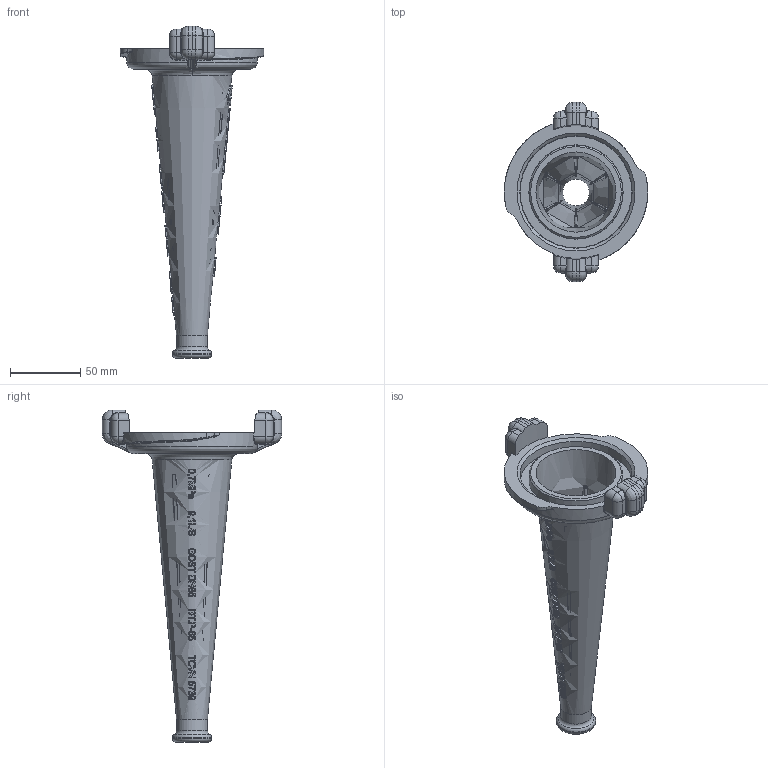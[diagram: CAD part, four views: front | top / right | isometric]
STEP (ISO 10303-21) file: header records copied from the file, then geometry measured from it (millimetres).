
FILE_DESCRIPTION(('STEP AP203'),'1');
FILE_NAME('Lang D65.stp','2025-07-15T12:00:19',(' '),(' '),'Spatial InterOp 3D',' ',' ');
FILE_SCHEMA(('CONFIG_CONTROL_DESIGN'));
Length unit declared in the file: millimetre
Products named in the file (1): Lang D65
Bounding box: 101.93 x 127.5 x 236 mm (x, y, z)
Volume: 111598.3 mm3; surface area: 73828.3 mm2
Topology: 1 solids, 1 shells, 1125 faces, 2913 edges, 1843 vertices
Faces by surface type: plane 371, extrusion 367, bspline 170, cylinder 109, cone 79, sphere 20, torus 9
Full cylindrical faces by diameter (mm): 19 x1, 22 x1, 28 x1
Entity records: 58770 total; most frequent: CARTESIAN_POINT 34215, ORIENTED_EDGE 5722, DIRECTION 3808, EDGE_CURVE 2861, VERTEX_POINT 1830, B_SPLINE_CURVE_WITH_KNOTS 1666, AXIS2_PLACEMENT_3D 1290, VECTOR 1228
